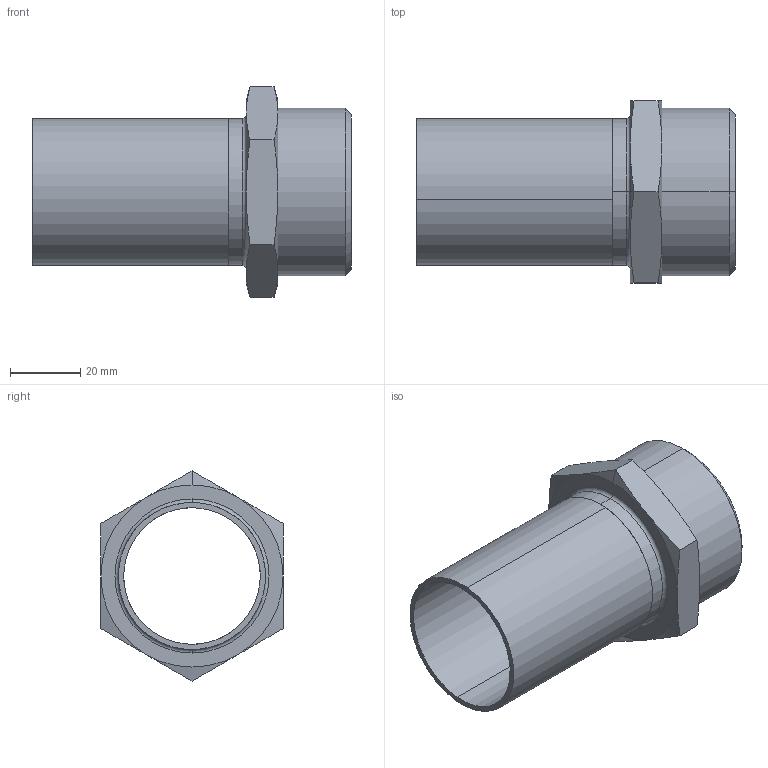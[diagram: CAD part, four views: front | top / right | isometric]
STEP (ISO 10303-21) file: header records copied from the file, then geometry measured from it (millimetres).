
FILE_DESCRIPTION (( 'STEP AP203' ), '1' );
FILE_NAME ('GDA6375.STEP', '2019-07-03T06:24:33', ( '' ), ( '' ), 'SwSTEP 2.0', 'SolidWorks 2015', '' );
FILE_SCHEMA (( 'CONFIG_CONTROL_DESIGN' ));
Length unit declared in the file: millimetre
Products named in the file (3): 眻奪42(酗59); GDA6375; OD42｡ﾁ1.5
Assembly tree (2 placements, depth 2):
  GDA6375
    OD42｡ﾁ1.5
    眻奪42(酗59)
Bounding box: 91 x 52 x 60.04 mm (x, y, z)
Volume: 32461.3 mm3; surface area: 26364.8 mm2
Topology: 2 solids, 2 shells, 44 faces, 92 edges, 54 vertices
Faces by surface type: cone 18, cylinder 12, plane 12, torus 2
Entity records: 1549 total; most frequent: CARTESIAN_POINT 315, DIRECTION 210, ORIENTED_EDGE 184, AXIS2_PLACEMENT_3D 93, EDGE_CURVE 92, VERTEX_POINT 54, EDGE_LOOP 50, ADVANCED_FACE 44
